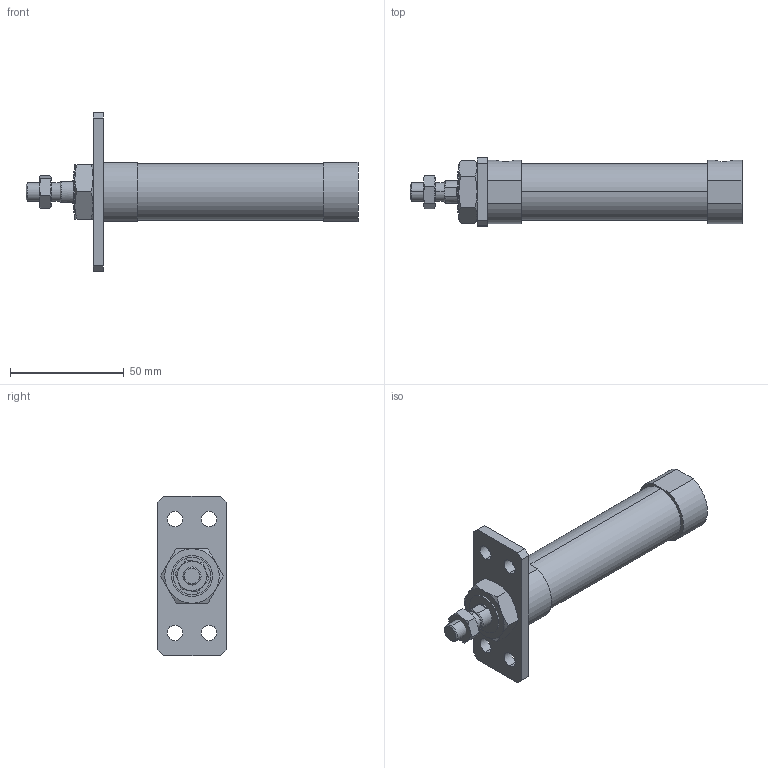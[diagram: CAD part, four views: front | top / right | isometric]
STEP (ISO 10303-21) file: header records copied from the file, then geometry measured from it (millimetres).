
FILE_DESCRIPTION (( 'STEP AP203' ), '1' );
FILE_NAME ('JGND2-20-50-A.STEP', '2016-08-04T02:22:35', ( '' ), ( '' ), 'SwSTEP 2.0', 'SolidWorks 2014', '' );
FILE_SCHEMA (( 'CONFIG_CONTROL_DESIGN' ));
Length unit declared in the file: millimetre
Products named in the file (5): J#2-20-50(P); J#2-20-A; JGND2-20-50-A
Assembly tree (4 placements, depth 2):
  JGND2-20-50-A
    J#2-20-50(P)
    (unnamed)
    (unnamed)
    J#2-20-A
Bounding box: 146 x 30 x 70 mm (x, y, z)
Volume: 71599.8 mm3; surface area: 19490.1 mm2
Topology: 4 solids, 4 shells, 104 faces, 236 edges, 148 vertices
Faces by surface type: plane 44, cylinder 32, torus 24, cone 4
Entity records: 3803 total; most frequent: CARTESIAN_POINT 951, DIRECTION 494, ORIENTED_EDGE 472, EDGE_CURVE 236, AXIS2_PLACEMENT_3D 203, VERTEX_POINT 148, EDGE_LOOP 126, FACE_OUTER_BOUND 104
